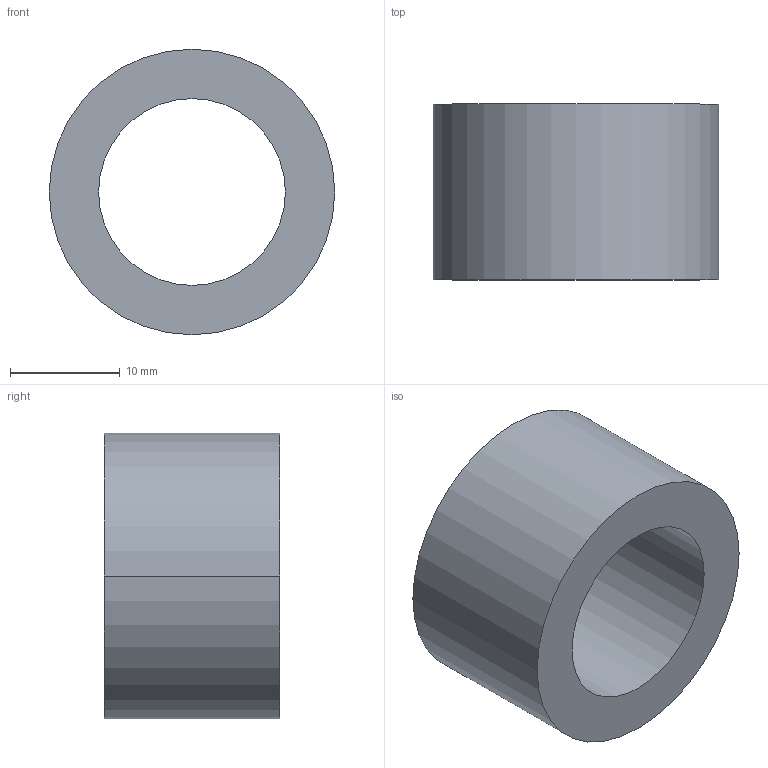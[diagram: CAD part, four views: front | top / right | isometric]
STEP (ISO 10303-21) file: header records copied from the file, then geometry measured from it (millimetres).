
FILE_DESCRIPTION (( 'STEP AP203' ), '1' );
FILE_NAME ('30800.WPP26F17.0.step', '2019-01-23T22:45:48', ( '' ), ( '' ), 'SwSTEP 2.0', 'SolidWorks 2017', '' );
FILE_SCHEMA (( 'CONFIG_CONTROL_DESIGN' ));
Length unit declared in the file: millimetre
Products named in the file (1): 30800.WPP26F17.0
Bounding box: 26 x 16 x 26 mm (x, y, z)
Volume: 4814.9 mm3; surface area: 2725.2 mm2
Topology: 1 solids, 1 shells, 8 faces, 16 edges, 10 vertices
Faces by surface type: cylinder 4, torus 2, plane 2
Entity records: 297 total; most frequent: DIRECTION 46, CARTESIAN_POINT 35, ORIENTED_EDGE 32, AXIS2_PLACEMENT_3D 21, EDGE_CURVE 16, CIRCLE 12, EDGE_LOOP 10, VERTEX_POINT 10
